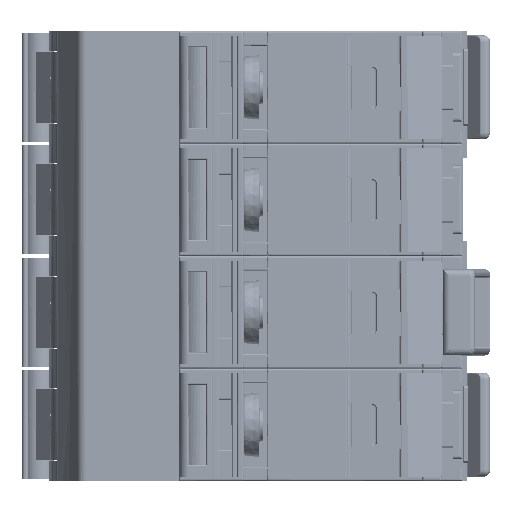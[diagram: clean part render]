
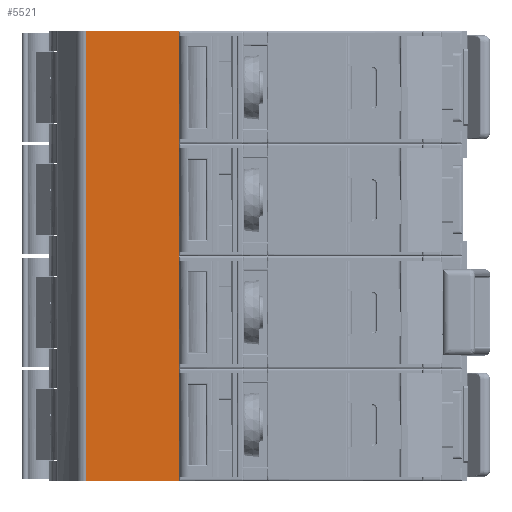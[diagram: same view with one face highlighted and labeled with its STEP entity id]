
A CAD part, left-side view. The second image highlights one B-rep face of the part: STEP entity #5521.
In plain terms, the highlighted planar face has unit normal (-1, 0, 0).
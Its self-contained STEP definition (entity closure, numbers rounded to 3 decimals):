
#5521 = ADVANCED_FACE ( 'NONE', ( #291975 ), #291922, .F. ) ;
#63283 = AXIS2_PLACEMENT_3D ( 'NONE', #292021, #292024, #292027 ) ;
#82151 = EDGE_CURVE ( 'NONE', #96824, #96751, #202728, .T. ) ;
#82576 = EDGE_CURVE ( 'NONE', #93498, #96824, #203459, .T. ) ;
#82579 = EDGE_CURVE ( 'NONE', #93498, #93509, #203484, .T. ) ;
#82582 = EDGE_CURVE ( 'NONE', #93509, #96751, #203470, .T. ) ;
#92504 = EDGE_LOOP ( 'NONE', ( #174079, #174081, #174083, #174084 ) ) ;
#93498 = VERTEX_POINT ( 'NONE', #245984 ) ;
#93509 = VERTEX_POINT ( 'NONE', #245998 ) ;
#96751 = VERTEX_POINT ( 'NONE', #246700 ) ;
#96824 = VERTEX_POINT ( 'NONE', #246740 ) ;
#174079 = ORIENTED_EDGE ( 'NONE', *, *, #82151, .F. ) ;
#174081 = ORIENTED_EDGE ( 'NONE', *, *, #82576, .F. ) ;
#174083 = ORIENTED_EDGE ( 'NONE', *, *, #82579, .T. ) ;
#174084 = ORIENTED_EDGE ( 'NONE', *, *, #82582, .T. ) ;
#202728 = LINE ( 'NONE', #202732, #265774 ) ;
#202732 = CARTESIAN_POINT ( 'NONE',  ( -28.088, 18.409, 61.329 ) ) ;
#202735 = DIRECTION ( 'NONE',  ( 0., -1., 0. ) ) ;
#203459 = LINE ( 'NONE', #203462, #265877 ) ;
#203462 = CARTESIAN_POINT ( 'NONE',  ( -28.088, 30.244, -7.32 ) ) ;
#203470 = LINE ( 'NONE', #203493, #265869 ) ;
#203483 = DIRECTION ( 'NONE',  ( 0., 0., 1. ) ) ;
#203484 = LINE ( 'NONE', #203488, #265879 ) ;
#203488 = CARTESIAN_POINT ( 'NONE',  ( -28.088, 30.244, -8.775 ) ) ;
#203490 = DIRECTION ( 'NONE',  ( 0., -1., 0. ) ) ;
#203493 = CARTESIAN_POINT ( 'NONE',  ( -28.088, 15.717, 7.297 ) ) ;
#203499 = DIRECTION ( 'NONE',  ( 0., 0., 1. ) ) ;
#245984 = CARTESIAN_POINT ( 'NONE',  ( -28.088, 30.244, -8.775 ) ) ;
#245998 = CARTESIAN_POINT ( 'NONE',  ( -28.088, 15.717, -8.775 ) ) ;
#246700 = CARTESIAN_POINT ( 'NONE',  ( -28.088, 15.717, 61.329 ) ) ;
#246740 = CARTESIAN_POINT ( 'NONE',  ( -28.088, 30.244, 61.329 ) ) ;
#265774 = VECTOR ( 'NONE', #202735, 1000. ) ;
#265869 = VECTOR ( 'NONE', #203499, 1000. ) ;
#265877 = VECTOR ( 'NONE', #203483, 1000. ) ;
#265879 = VECTOR ( 'NONE', #203490, 1000. ) ;
#291922 = PLANE ( 'NONE',  #63283 ) ;
#291975 = FACE_OUTER_BOUND ( 'NONE', #92504, .T. ) ;
#292021 = CARTESIAN_POINT ( 'NONE',  ( -28.088, 18.409, -7.32 ) ) ;
#292024 = DIRECTION ( 'NONE',  ( 1., 0., 0. ) ) ;
#292027 = DIRECTION ( 'NONE',  ( 0., 0., -1. ) ) ;
